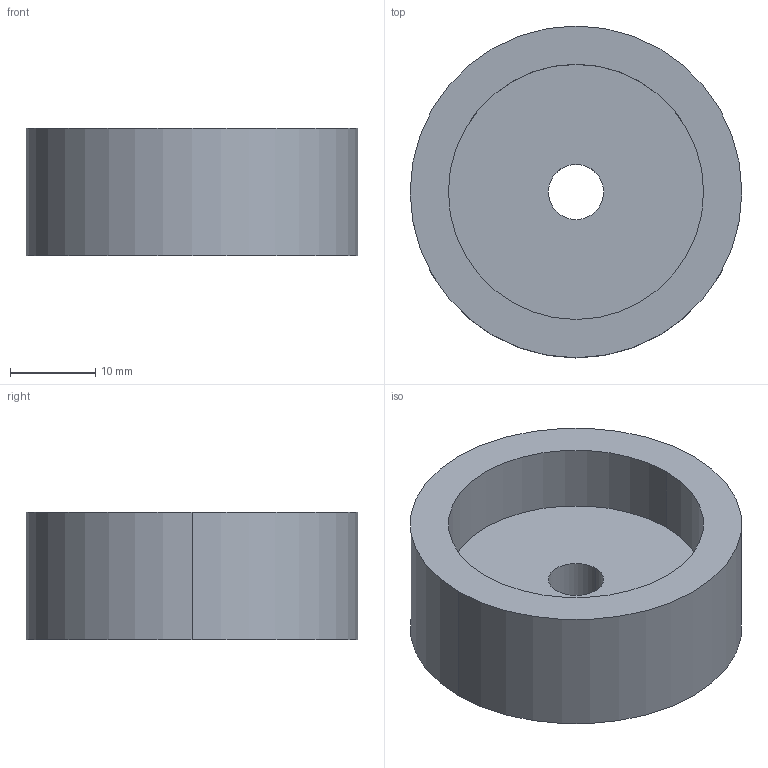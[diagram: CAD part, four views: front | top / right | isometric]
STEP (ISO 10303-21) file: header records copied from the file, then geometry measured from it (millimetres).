
FILE_DESCRIPTION (( 'STEP AP214' ), '1' );
FILE_NAME ('Roue Tournage.STEP', '2022-07-14T15:24:45', ( '' ), ( '' ), 'SwSTEP 2.0', 'SolidWorks 2021', '' );
FILE_SCHEMA (( 'AUTOMOTIVE_DESIGN' ));
Length unit declared in the file: millimetre
Products named in the file (1): Roue Tournage
Bounding box: 39 x 39 x 15 mm (x, y, z)
Volume: 12031.7 mm3; surface area: 5057.6 mm2
Topology: 1 solids, 1 shells, 9 faces, 18 edges, 12 vertices
Faces by surface type: cylinder 6, plane 3
Entity records: 282 total; most frequent: DIRECTION 50, CARTESIAN_POINT 40, ORIENTED_EDGE 36, AXIS2_PLACEMENT_3D 22, EDGE_CURVE 18, VERTEX_POINT 12, EDGE_LOOP 12, CIRCLE 12
